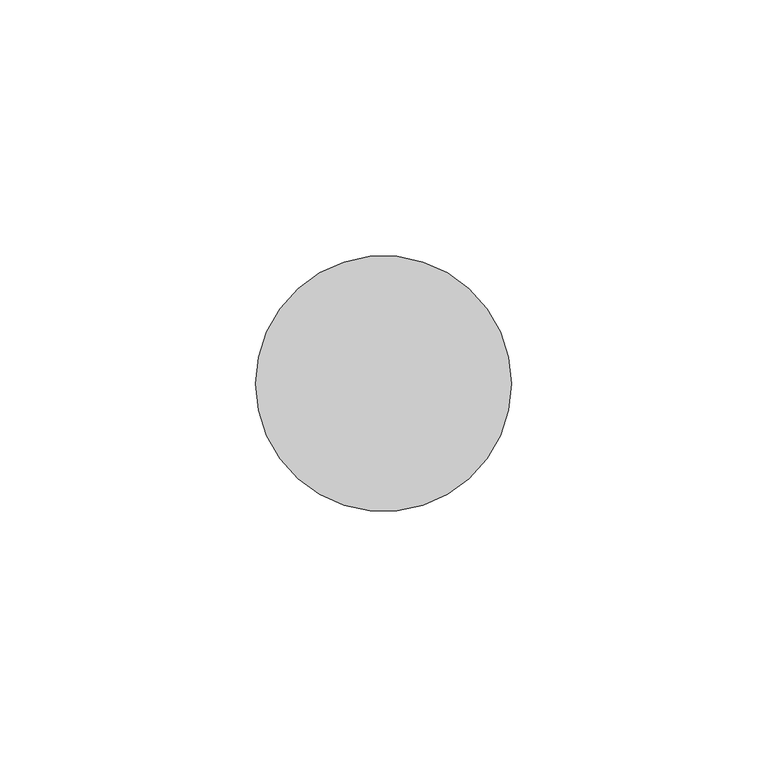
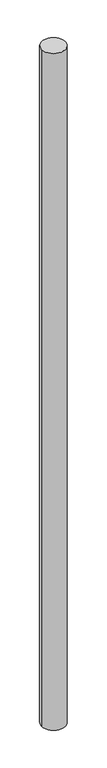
"""IFC4 building model written with IfcOpenShell, lengths in millimetres: member geometry, 圆形竖梃 : 25mm 半径."""

from ifc_helpers import new_model, si_unit, point, frame, frame_2d, origin, place, context, project, spatial, circle_curve, trimmed, segment, composite_curve, outline, extrude, source, transform, mapped, element, save


def member_ce826986(model_context):
    return source(origin(), model_context, "Body", "SweptSolid", [
        extrude(outline(composite_curve([segment(trimmed(circle_curve(frame_2d((-25.0, 0.0)), 25.0), [point((0.0, 0.0))], [point((-50.0, 0.0))], False, "CARTESIAN"), True, "CONTINUOUS"), segment(trimmed(circle_curve(frame_2d((-25.0, 0.0)), 25.0), [point((-50.0, 0.0))], [point((0.0, 0.0))], False, "CARTESIAN"), True, "CONTINUOUS")], self_intersect=False)), frame((0.0, 0.0, -1500.0), z_axis=(0.0, 0.0, 1.0), x_axis=(1.0, 0.0, 0.0)), (0.0, 0.0, 1.0), 1500.0),
    ])


if __name__ == "__main__":
    model = new_model("IFC4")
    model_context = context("Model", 3, world=origin())
    ifc_project = project(units=[si_unit("LENGTHUNIT", "METRE", prefix="MILLI")], contexts=[model_context])
    site = spatial("IfcSite", under=ifc_project)
    building = spatial("IfcBuilding", under=site)
    placement = place(None, origin())
    member_shape = member_ce826986(model_context)
    element("IfcMember", 1, ObjectType="圆形竖梃 : 25mm 半径", at=placement, inside=building, context=model_context, shape_type="MappedRepresentation", body=[
        mapped(member_shape, transform((0.0, 0.0, 0.0), x_axis=(1.0, 0.0, 0.0), y_axis=(0.0, 1.0, 0.0), z_axis=(0.0, 0.0, 1.0))),
    ])
    save(model, "model.ifc")
